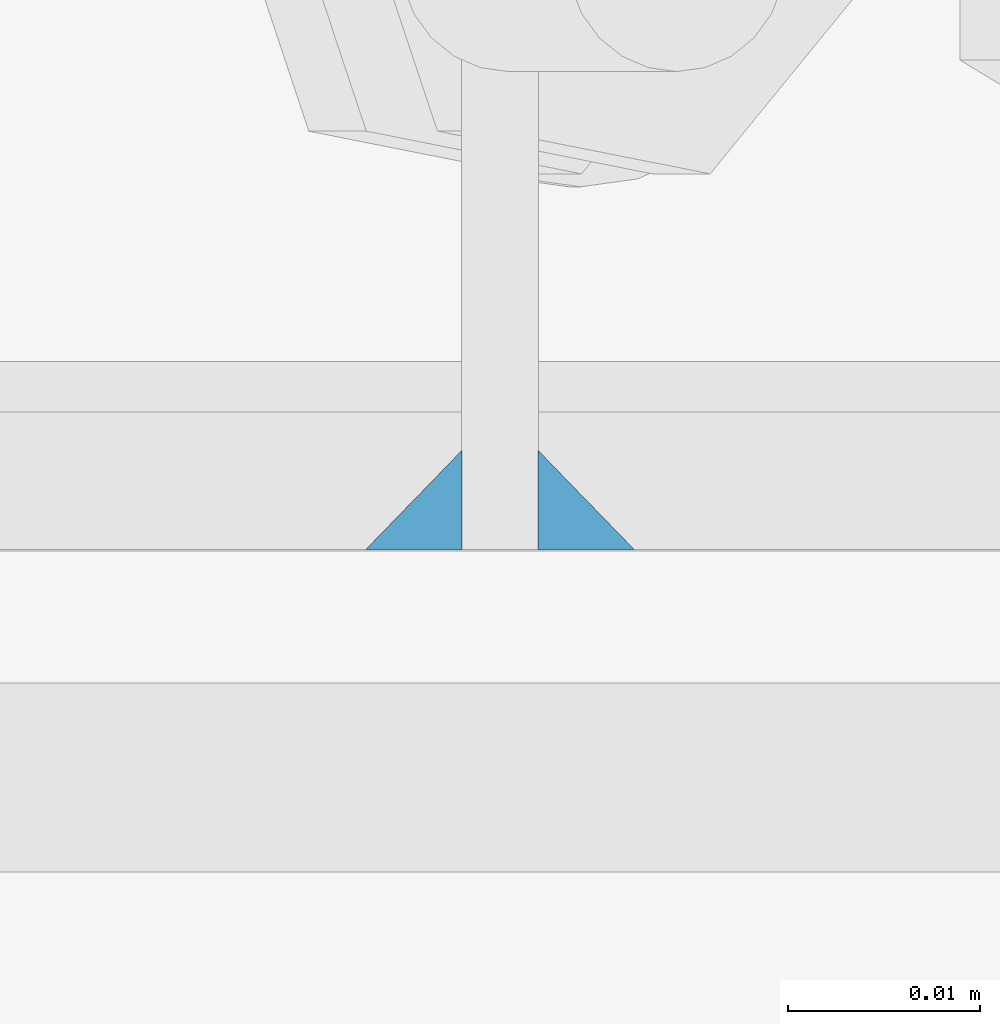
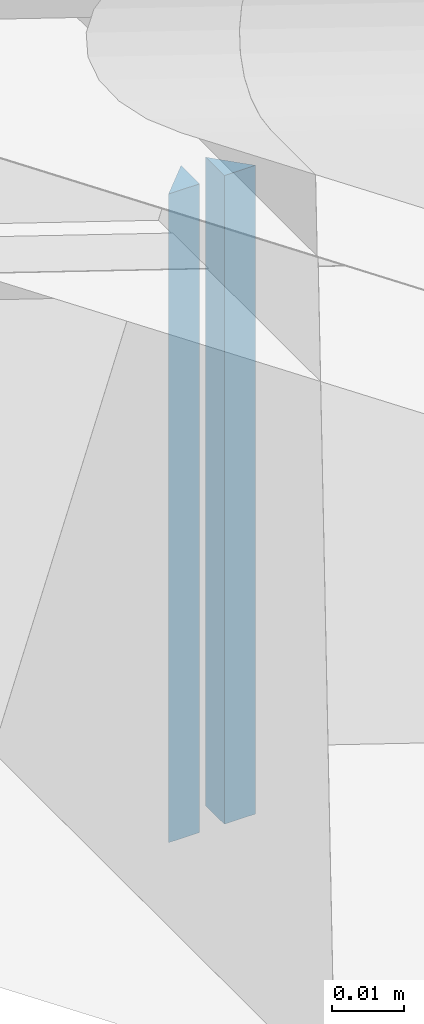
# One storey, part 22 of 53: 2 fasteners.
"""IFC4 building model written with IfcOpenShell, lengths in metres."""

from ifc_helpers import new_model, si_unit, frame, origin_with_axes, place, context, project, spatial, polyline, outline, extrude, type_object, element, save


model = new_model("IFC4")

# Units and contexts
model_context = context("Model", 3, precision=1e-05, world=origin_with_axes())
ifc_project = project(units=[si_unit("LENGTHUNIT", "METRE"), si_unit("AREAUNIT", "SQUARE_METRE"), si_unit("VOLUMEUNIT", "CUBIC_METRE"), si_unit("MASSUNIT", "GRAM", prefix="KILO"), si_unit("TIMEUNIT", "SECOND"), si_unit("PLANEANGLEUNIT", "RADIAN"), si_unit("SOLIDANGLEUNIT", "STERADIAN"), si_unit("THERMODYNAMICTEMPERATUREUNIT", "DEGREE_CELSIUS")], contexts=[model_context])

# Site, building, storey
placement_1 = place(None, origin_with_axes())
site = spatial("IfcSite", under=ifc_project, at=placement_1, Name="Italia", CompositionType="ELEMENT")
building = spatial("IfcBuilding", under=site, at=placement_1, Name="Capannone", CompositionType="ELEMENT")
storey_placement = place(None, frame((0.0, 0.0, 5.550000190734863), z_axis=(0.0, 0.0, 1.0), x_axis=(1.0, 0.0, 0.0)))
storey = spatial("IfcBuildingStorey", under=building, at=storey_placement, Name="Storey 1", CompositionType="ELEMENT", Elevation=5.550000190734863)

# Fasteners
fastener_type_1 = type_object("IfcFastenerType", Name="Collegamento 0110_0012", PredefinedType="WELD")
placement_2 = place(placement_1, origin_with_axes())
fastener_1_placement = place(placement_2, origin_with_axes())
element("IfcFastener", 1, at=fastener_1_placement, inside=storey, type_object=fastener_type_1, Name="Collegamento 0110_0012", context=model_context, shape_type="SweptSolid", body=[
    extrude(outline(polyline([(0.0, 0.0), (0.00517273, -0.00501728), (0.0, -0.00501728), (0.0, 0.0)])), frame((14.013, 12.0035, 5.53693), z_axis=(0.0, 0.0, -1.0), x_axis=(0.0, 1.0, 0.0)), (0.0, 0.0, 1.0), 0.1101),
])
fastener_type_2 = type_object("IfcFastenerType", Name="Collegamento 0110_0012", PredefinedType="WELD")
fastener_2_placement = place(placement_2, origin_with_axes())
element("IfcFastener", 2, at=fastener_2_placement, inside=storey, type_object=fastener_type_2, Name="Collegamento 0110_0012", context=model_context, shape_type="SweptSolid", body=[
    extrude(outline(polyline([(0.0, 0.0), (0.00517273, -0.00501728), (0.0, -0.00501728), (0.0, 0.0)])), frame((13.999, 12.0035, 5.42683), z_axis=(0.0, 0.0, 1.0), x_axis=(0.0, 1.0, 0.0)), (0.0, 0.0, 1.0), 0.1101),
])

save(model, "model.ifc")
